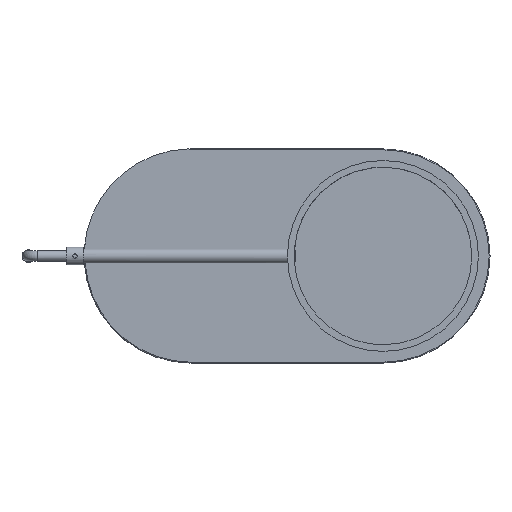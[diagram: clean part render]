
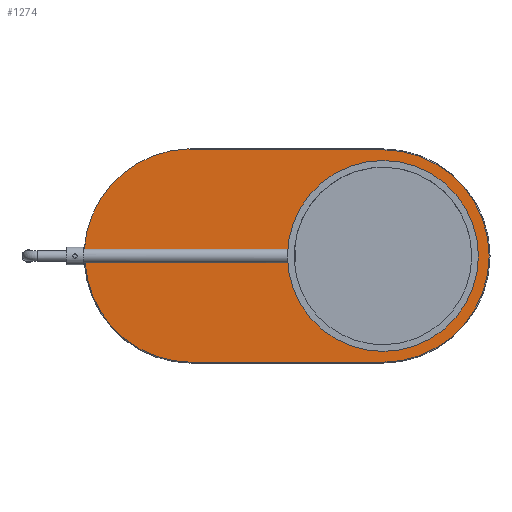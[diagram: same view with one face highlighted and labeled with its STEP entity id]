
A CAD part, top view. The second image highlights one B-rep face of the part: STEP entity #1274.
In plain terms, the highlighted planar face has unit normal (0, 0, 1).
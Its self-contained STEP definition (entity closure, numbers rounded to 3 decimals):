
#397=CARTESIAN_POINT('',(0.0,-119.0,3.));
#398=VERTEX_POINT('',#397);
#406=CARTESIAN_POINT('',(-214.999,-119.,3.));
#407=VERTEX_POINT('',#406);
#408=CARTESIAN_POINT('',(0.0,-119.0,3.));
#409=DIRECTION('',(-1.0,0.0,0.0));
#410=VECTOR('',#409,214.999);
#411=LINE('',#408,#410);
#412=EDGE_CURVE('',#398,#407,#411,.T.);
#438=CARTESIAN_POINT('',(0.,119.0,3.));
#439=VERTEX_POINT('',#438);
#447=CARTESIAN_POINT('',(0.0,0.0,3.));
#448=DIRECTION('',(0.0,0.0,-1.0));
#449=DIRECTION('',(1.0,0.0,0.0));
#450=AXIS2_PLACEMENT_3D('',#447,#448,#449);
#451=CIRCLE('',#450,119.0);
#452=EDGE_CURVE('',#439,#398,#451,.T.);
#464=CARTESIAN_POINT('',(-333.625,-7.685,3.));
#465=VERTEX_POINT('',#464);
#466=CARTESIAN_POINT('',(-214.859,0.015,3.));
#467=DIRECTION('',(0.0,0.0,-1.));
#468=DIRECTION('',(-0.684,-0.729,0.0));
#469=AXIS2_PLACEMENT_3D('',#466,#467,#468);
#470=CIRCLE('',#469,119.015);
#471=EDGE_CURVE('',#407,#465,#470,.T.);
#498=CARTESIAN_POINT('',(-199.167,119.0,3.));
#499=VERTEX_POINT('',#498);
#527=CARTESIAN_POINT('',(-199.167,119.0,3.));
#528=DIRECTION('',(1.0,0.0,0.0));
#529=VECTOR('',#528,199.167);
#530=LINE('',#527,#529);
#531=EDGE_CURVE('',#499,#439,#530,.T.);
#1196=CARTESIAN_POINT('',(-100.707,-7.685,3.));
#1197=VERTEX_POINT('',#1196);
#1198=CARTESIAN_POINT('',(-100.707,-7.685,3.));
#1199=DIRECTION('',(-1.0,0.0,0.0));
#1200=VECTOR('',#1199,232.918);
#1201=LINE('',#1198,#1200);
#1202=EDGE_CURVE('',#1197,#465,#1201,.T.);
#1204=CARTESIAN_POINT('',(-100.707,7.685,3.));
#1205=VERTEX_POINT('',#1204);
#1227=CARTESIAN_POINT('',(-334.629,7.685,3.));
#1228=VERTEX_POINT('',#1227);
#1229=CARTESIAN_POINT('',(-334.629,7.685,3.));
#1230=DIRECTION('',(1.0,0.0,0.0));
#1231=VECTOR('',#1230,233.922);
#1232=LINE('',#1229,#1231);
#1233=EDGE_CURVE('',#1228,#1205,#1232,.T.);
#1247=CARTESIAN_POINT('',(-107.4,-0.024,3.));
#1248=DIRECTION('',(0.0,0.0,1.0));
#1249=DIRECTION('',(1.0,0.0,0.0));
#1250=AXIS2_PLACEMENT_3D('',#1247,#1248,#1249);
#1251=PLANE('',#1250);
#1252=CARTESIAN_POINT('',(-214.859,0.015,3.));
#1253=DIRECTION('',(0.0,0.0,-1.0));
#1254=DIRECTION('',(-0.022,-1.,0.0));
#1255=AXIS2_PLACEMENT_3D('',#1252,#1253,#1254);
#1256=CIRCLE('',#1255,120.015);
#1257=EDGE_CURVE('',#1228,#499,#1256,.T.);
#1258=ORIENTED_EDGE('',*,*,#1257,.F.);
#1259=ORIENTED_EDGE('',*,*,#1233,.T.);
#1260=CARTESIAN_POINT('',(0.0,0.0,3.));
#1261=DIRECTION('',(0.0,0.0,1.0));
#1262=DIRECTION('',(-1.0,0.0,0.0));
#1263=AXIS2_PLACEMENT_3D('',#1260,#1261,#1262);
#1264=CIRCLE('',#1263,101.);
#1265=EDGE_CURVE('',#1197,#1205,#1264,.T.);
#1266=ORIENTED_EDGE('',*,*,#1265,.F.);
#1267=ORIENTED_EDGE('',*,*,#1202,.T.);
#1268=ORIENTED_EDGE('',*,*,#471,.F.);
#1269=ORIENTED_EDGE('',*,*,#412,.F.);
#1270=ORIENTED_EDGE('',*,*,#452,.F.);
#1271=ORIENTED_EDGE('',*,*,#531,.F.);
#1272=EDGE_LOOP('',(#1258,#1259,#1266,#1267,#1268,#1269,#1270,#1271));
#1273=FACE_OUTER_BOUND('',#1272,.T.);
#1274=ADVANCED_FACE('',(#1273),#1251,.T.);
